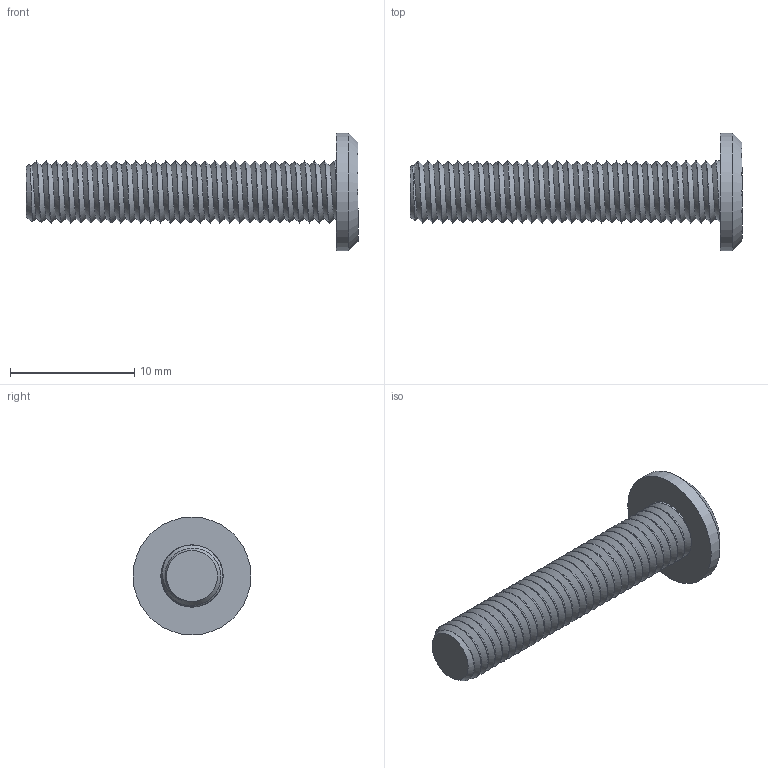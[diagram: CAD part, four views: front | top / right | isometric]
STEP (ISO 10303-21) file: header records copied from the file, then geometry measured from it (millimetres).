
FILE_DESCRIPTION(/* description */ ('STEP AP242 Edition 2','CAx-IF Rec.Pracs.---Representation and Presentation of Product Manufacturing Information (PMI)---4.0---2014-10-13','CAx-IF Rec.Pracs.---3D Tessellated Geometry---0.4---2014-09-14','2;1','CAx-IF Rec.Pracs.---User Defined Attributes---1.5---2016-08-15'),/* implementation_level */ '2;1');
FILE_NAME(/* name */ 'Final Build - M5x25 (5)',/* time_stamp */ '2026-08-31T23:26:17Z',/* author */ (''),/* organization */ (''),/* preprocessor_version */ 'ST-DEVELOPER v20',/* originating_system */ 'ONSHAPE BY PTC INC, 1.220',/* authorisation */ ' ');
FILE_SCHEMA (('AP242_MANAGED_MODEL_BASED_3D_ENGINEERING_MIM_LF { 1 0 10303 442 3 1 4 }'));
Length unit declared in the file: metre
Products named in the file (1): M5x25
Bounding box: 26.75 x 9.5 x 9.5 mm (x, y, z)
Volume: 529 mm3; surface area: 693.8 mm2
Topology: 1 solids, 1 shells, 18 faces, 41 edges, 27 vertices
Faces by surface type: plane 11, cylinder 3, bspline 2, cone 2
Full cylindrical faces by diameter (mm): 9.5 x1
Entity records: 8136 total; most frequent: CARTESIAN_POINT 7750, ORIENTED_EDGE 72, DIRECTION 68, EDGE_CURVE 36, VERTEX_POINT 25, AXIS2_PLACEMENT_3D 24, EDGE_LOOP 23, FACE_BOUND 23
